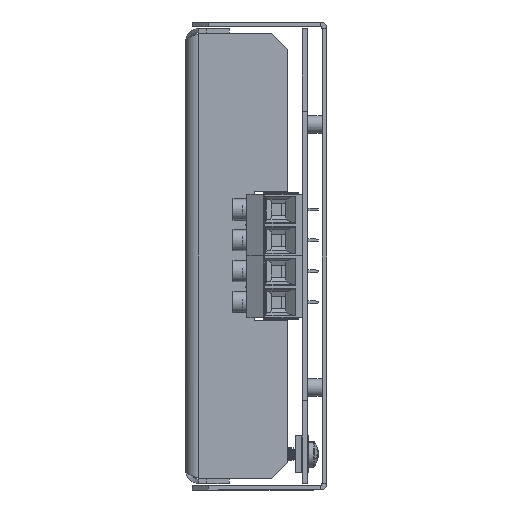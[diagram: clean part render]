
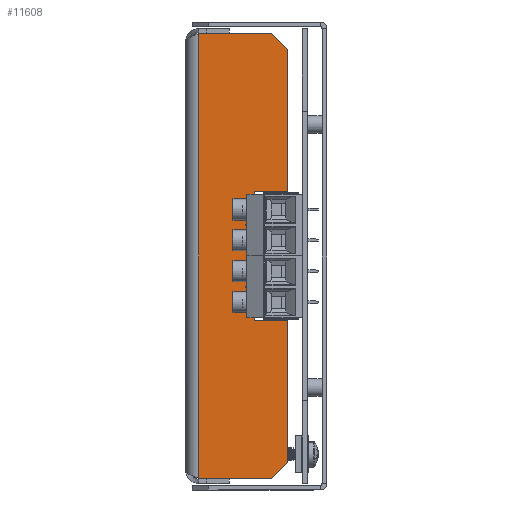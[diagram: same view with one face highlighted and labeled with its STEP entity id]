
A CAD part, left-side view. The second image highlights one B-rep face of the part: STEP entity #11608.
In plain terms, the highlighted planar face has unit normal (-1, 0, 0).
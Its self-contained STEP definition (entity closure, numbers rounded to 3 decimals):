
#549 = DIRECTION ( 'NONE',  ( 0., -1., 0. ) ) ;
#627 = EDGE_CURVE ( 'NONE', #41576, #2874, #15752, .T. ) ;
#2874 = VERTEX_POINT ( 'NONE', #13860 ) ;
#3156 = VERTEX_POINT ( 'NONE', #63106 ) ;
#3226 = FACE_OUTER_BOUND ( 'NONE', #46782, .T. ) ;
#7393 = VERTEX_POINT ( 'NONE', #66931 ) ;
#7876 = ORIENTED_EDGE ( 'NONE', *, *, #14414, .T. ) ;
#9917 = ORIENTED_EDGE ( 'NONE', *, *, #67339, .F. ) ;
#9959 = DIRECTION ( 'NONE',  ( 0., 0., -1. ) ) ;
#10300 = DIRECTION ( 'NONE',  ( 0., -0.707, 0.707 ) ) ;
#11608 = ADVANCED_FACE ( 'NONE', ( #3226 ), #16844, .T. ) ;
#12604 = AXIS2_PLACEMENT_3D ( 'NONE', #15950, #21195, #33748 ) ;
#13279 = VECTOR ( 'NONE', #549, 1000. ) ;
#13860 = CARTESIAN_POINT ( 'NONE',  ( -85., -26.5, 68.4 ) ) ;
#14069 = LINE ( 'NONE', #24295, #40963 ) ;
#14283 = CARTESIAN_POINT ( 'NONE',  ( -85., -26.5, -68.4 ) ) ;
#14414 = EDGE_CURVE ( 'NONE', #18077, #7393, #14069, .T. ) ;
#15752 = LINE ( 'NONE', #57115, #13279 ) ;
#15950 = CARTESIAN_POINT ( 'NONE',  ( -85., 0., 0. ) ) ;
#16324 = DIRECTION ( 'NONE',  ( 0., 0., -1. ) ) ;
#16844 = PLANE ( 'NONE',  #12604 ) ;
#18077 = VERTEX_POINT ( 'NONE', #20066 ) ;
#19178 = CARTESIAN_POINT ( 'NONE',  ( -85., -31.5, -63.4 ) ) ;
#19524 = EDGE_CURVE ( 'NONE', #3156, #2874, #34959, .T. ) ;
#19932 = VERTEX_POINT ( 'NONE', #14283 ) ;
#19995 = EDGE_CURVE ( 'NONE', #32195, #21031, #59320, .T. ) ;
#20066 = CARTESIAN_POINT ( 'NONE',  ( -85., -21.3, -19.7 ) ) ;
#20852 = VERTEX_POINT ( 'NONE', #53143 ) ;
#21031 = VERTEX_POINT ( 'NONE', #19178 ) ;
#21195 = DIRECTION ( 'NONE',  ( -1., 0., 0. ) ) ;
#24226 = VECTOR ( 'NONE', #9959, 1000. ) ;
#24295 = CARTESIAN_POINT ( 'NONE',  ( -85., -21.3, 0. ) ) ;
#26278 = ORIENTED_EDGE ( 'NONE', *, *, #19524, .T. ) ;
#27218 = LINE ( 'NONE', #45287, #32135 ) ;
#27459 = CARTESIAN_POINT ( 'NONE',  ( -85., 0., -19.7 ) ) ;
#29665 = ORIENTED_EDGE ( 'NONE', *, *, #627, .F. ) ;
#30030 = DIRECTION ( 'NONE',  ( 0., -1., 0. ) ) ;
#30371 = LINE ( 'NONE', #50347, #49966 ) ;
#31579 = EDGE_CURVE ( 'NONE', #41576, #66977, #40531, .T. ) ;
#32135 = VECTOR ( 'NONE', #10300, 1000. ) ;
#32195 = VERTEX_POINT ( 'NONE', #50790 ) ;
#32470 = VECTOR ( 'NONE', #50827, 1000. ) ;
#32627 = VECTOR ( 'NONE', #30030, 1000. ) ;
#33428 = DIRECTION ( 'NONE',  ( 0., -1., 0. ) ) ;
#33748 = DIRECTION ( 'NONE',  ( 0., -1., 0. ) ) ;
#33965 = VECTOR ( 'NONE', #62005, 1000. ) ;
#34640 = CARTESIAN_POINT ( 'NONE',  ( -85., 0., 19.7 ) ) ;
#34672 = ORIENTED_EDGE ( 'NONE', *, *, #19995, .F. ) ;
#34792 = DIRECTION ( 'NONE',  ( 0., 0., 1. ) ) ;
#34959 = LINE ( 'NONE', #61603, #32470 ) ;
#35497 = CARTESIAN_POINT ( 'NONE',  ( -85., -31.5, -70. ) ) ;
#35534 = CARTESIAN_POINT ( 'NONE',  ( -85., -4., 0. ) ) ;
#37213 = CARTESIAN_POINT ( 'NONE',  ( -85., -4., -68.4 ) ) ;
#37837 = ORIENTED_EDGE ( 'NONE', *, *, #42957, .T. ) ;
#39869 = EDGE_CURVE ( 'NONE', #19932, #21031, #27218, .T. ) ;
#40531 = LINE ( 'NONE', #35534, #33965 ) ;
#40963 = VECTOR ( 'NONE', #34792, 1000. ) ;
#41576 = VERTEX_POINT ( 'NONE', #49469 ) ;
#42109 = CARTESIAN_POINT ( 'NONE',  ( -85., -31.5, -70. ) ) ;
#42957 = EDGE_CURVE ( 'NONE', #7393, #20852, #61264, .T. ) ;
#44876 = DIRECTION ( 'NONE',  ( 0., -1., 0. ) ) ;
#45287 = CARTESIAN_POINT ( 'NONE',  ( -85., -47.45, -47.45 ) ) ;
#45845 = ORIENTED_EDGE ( 'NONE', *, *, #52942, .T. ) ;
#46094 = LINE ( 'NONE', #42109, #57573 ) ;
#46632 = EDGE_CURVE ( 'NONE', #18077, #32195, #51539, .T. ) ;
#46782 = EDGE_LOOP ( 'NONE', ( #65098, #7876, #37837, #9917, #26278, #29665, #65494, #45845, #55040, #34672 ) ) ;
#49469 = CARTESIAN_POINT ( 'NONE',  ( -85., -4., 68.4 ) ) ;
#49966 = VECTOR ( 'NONE', #44876, 1000. ) ;
#50347 = CARTESIAN_POINT ( 'NONE',  ( -85., 0., -68.4 ) ) ;
#50790 = CARTESIAN_POINT ( 'NONE',  ( -85., -31.5, -19.7 ) ) ;
#50827 = DIRECTION ( 'NONE',  ( 0., 0.707, 0.707 ) ) ;
#51539 = LINE ( 'NONE', #27459, #60570 ) ;
#52942 = EDGE_CURVE ( 'NONE', #66977, #19932, #30371, .T. ) ;
#53143 = CARTESIAN_POINT ( 'NONE',  ( -85., -31.5, 19.7 ) ) ;
#55040 = ORIENTED_EDGE ( 'NONE', *, *, #39869, .T. ) ;
#57115 = CARTESIAN_POINT ( 'NONE',  ( -85., 0., 68.4 ) ) ;
#57573 = VECTOR ( 'NONE', #16324, 1000. ) ;
#59320 = LINE ( 'NONE', #35497, #24226 ) ;
#60570 = VECTOR ( 'NONE', #33428, 1000. ) ;
#61264 = LINE ( 'NONE', #34640, #32627 ) ;
#61603 = CARTESIAN_POINT ( 'NONE',  ( -85., -47.45, 47.45 ) ) ;
#62005 = DIRECTION ( 'NONE',  ( 0., 0., -1. ) ) ;
#63106 = CARTESIAN_POINT ( 'NONE',  ( -85., -31.5, 63.4 ) ) ;
#65098 = ORIENTED_EDGE ( 'NONE', *, *, #46632, .F. ) ;
#65494 = ORIENTED_EDGE ( 'NONE', *, *, #31579, .T. ) ;
#66931 = CARTESIAN_POINT ( 'NONE',  ( -85., -21.3, 19.7 ) ) ;
#66977 = VERTEX_POINT ( 'NONE', #37213 ) ;
#67339 = EDGE_CURVE ( 'NONE', #3156, #20852, #46094, .T. ) ;
